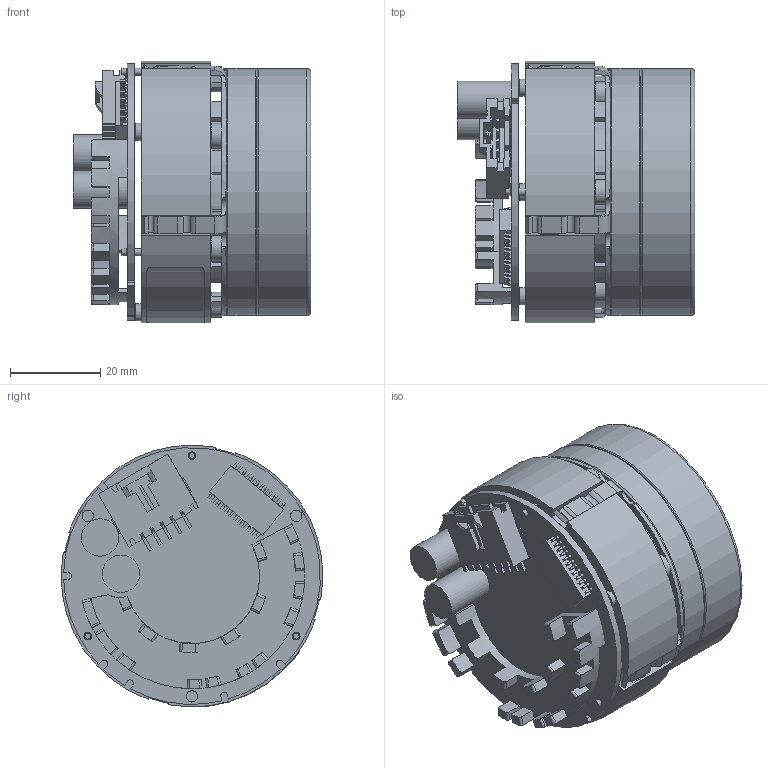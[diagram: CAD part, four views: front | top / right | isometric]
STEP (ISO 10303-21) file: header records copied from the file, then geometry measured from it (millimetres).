
FILE_DESCRIPTION (( 'STEP AP214' ), '1' );
FILE_NAME ('PD20-PM-00B.STEP', '2017-03-03T21:12:43', ( '' ), ( '' ), 'SwSTEP 2.0', 'SolidWorks 2015', '' );
FILE_SCHEMA (( 'AUTOMOTIVE_DESIGN' ));
Length unit declared in the file: millimetre
Products named in the file (23): PD01-SC-00; PD20-PM-00B; PD01-EP-00; PD20-BO-00; PD20-BB-00; PD01-CU-00; PD01-MA-00B; Processor^PD01-MA-00B; Connector^PD01-MA-00B; Cap^PD01-MA-00B; HS^PD01-MA-00B; Label^PD01-MA-00B; Pins^PD01-MA-00B; PCB^PD01-MA-00B; PD20-PU-00; Mol^PD01-MA-00B; MB0112; Lam^PD01-MA-00B
Assembly tree (25 placements, depth 4):
  PD20-PM-00B
    PD01-MA-00B
      Lam^PD01-MA-00B
      Mol^PD01-MA-00B
      PCB^PD01-MA-00B
      Pins^PD01-MA-00B  x3
      Label^PD01-MA-00B
      HS^PD01-MA-00B
      Cap^PD01-MA-00B  x2
      Connector^PD01-MA-00B
      Processor^PD01-MA-00B
    PD20-PU-00
      PD01-SC-00
      PD01-CU-00
      PD20-BO-00
        PD20-BB-00
      PD01-EP-00
      PD01-SC-00
      PD01-SC-00
      PD01-SC-00
      PD01-SC-00
      PD01-SC-00
      MB0112
Bounding box: 52.8 x 58.08 x 58.08 mm (x, y, z)
Volume: 79723.9 mm3; surface area: 52480 mm2
Topology: 22 solids, 22 shells, 1490 faces, 4150 edges, 2759 vertices
Faces by surface type: plane 965, cylinder 481, torus 29, cone 15
Full cylindrical faces by diameter (mm): 1.6 x15, 1.7 x3, 2.4 x6, 2.5 x3, 2.55 x3, 3.3 x8, 3.8 x3, 5.5 x6, 6 x2, 8.3 x2, 8.4 x2, 26 x1, 36.1 x1, 38 x1, 42.7 x2, 49.1 x1, 54.8 x2
Entity records: 51249 total; most frequent: CARTESIAN_POINT 8853, ORIENTED_EDGE 7984, DIRECTION 7852, EDGE_CURVE 3992, VECTOR 2912, LINE 2912, VERTEX_POINT 2707, AXIS2_PLACEMENT_3D 2470
